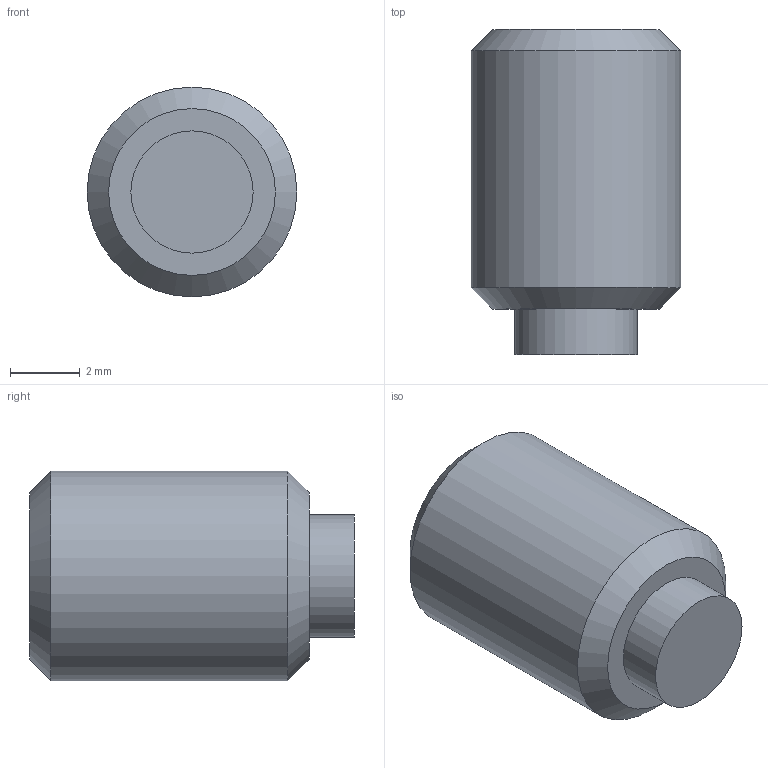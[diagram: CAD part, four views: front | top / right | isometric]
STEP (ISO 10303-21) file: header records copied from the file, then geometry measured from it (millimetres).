
FILE_DESCRIPTION( ( 'STEP AP203' ), '1' );
FILE_NAME( 'C:/Temp/Ganter_Step_05_03_2020/data/3_2/gn913_3/Grub screw GN 913.3-M6-8-KU.stp', '2020-03-13T05:35:35', ( 'License CC BY-ND 4.0' ), ( 'CADENAS' ), ' ', 'PARTsolutions', ' ' );
FILE_SCHEMA( ( 'CONFIG_CONTROL_DESIGN' ) );
Length unit declared in the file: millimetre
Products named in the file (1): _Grub screw GN 913.3-M6-8-KU
Bounding box: 6 x 9.3 x 6 mm (x, y, z)
Volume: 204.8 mm3; surface area: 243.5 mm2
Topology: 1 solids, 1 shells, 14 faces, 28 edges, 18 vertices
Faces by surface type: plane 10, cylinder 2, cone 2
Full cylindrical faces by diameter (mm): 3.5 x1, 6 x1
Entity records: 386 total; most frequent: DIRECTION 60, CARTESIAN_POINT 57, ORIENTED_EDGE 48, EDGE_CURVE 24, AXIS2_PLACEMENT_3D 21, EDGE_LOOP 20, VERTEX_POINT 18, LINE 18
